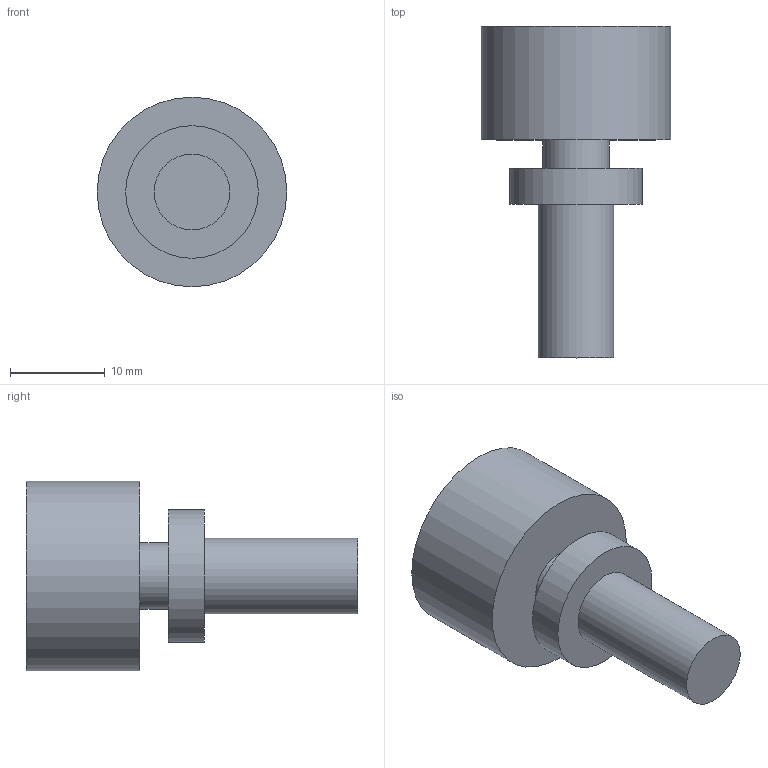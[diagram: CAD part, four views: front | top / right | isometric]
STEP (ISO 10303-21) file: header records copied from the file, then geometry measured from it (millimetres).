
FILE_DESCRIPTION(('Open CASCADE Model'),'2;1');
FILE_NAME('Open CASCADE Shape Model','2026-10-17T22:10:42',('Author'),( 'Open CASCADE'),'Open CASCADE STEP processor 7.9','Open CASCADE 7.9' ,'Unknown');
FILE_SCHEMA(('AUTOMOTIVE_DESIGN { 1 0 10303 214 1 1 1 1 }'));
Length unit declared in the file: millimetre
Products named in the file (1): Open CASCADE STEP translator 7.9 10
Bounding box: 20 x 35 x 20 mm (x, y, z)
Volume: 5284.6 mm3; surface area: 2253.5 mm2
Topology: 1 solids, 1 shells, 9 faces, 12 edges, 8 vertices
Faces by surface type: plane 5, cylinder 4
Full cylindrical faces by diameter (mm): 7 x1, 8 x1, 14 x1, 20 x1
Entity records: 360 total; most frequent: DIRECTION 64, CARTESIAN_POINT 54, ORIENTED_EDGE 24, PCURVE 24, DEFINITIONAL_REPRESENTATION 24, LINE 20, VECTOR 20, AXIS2_PLACEMENT_3D 18
